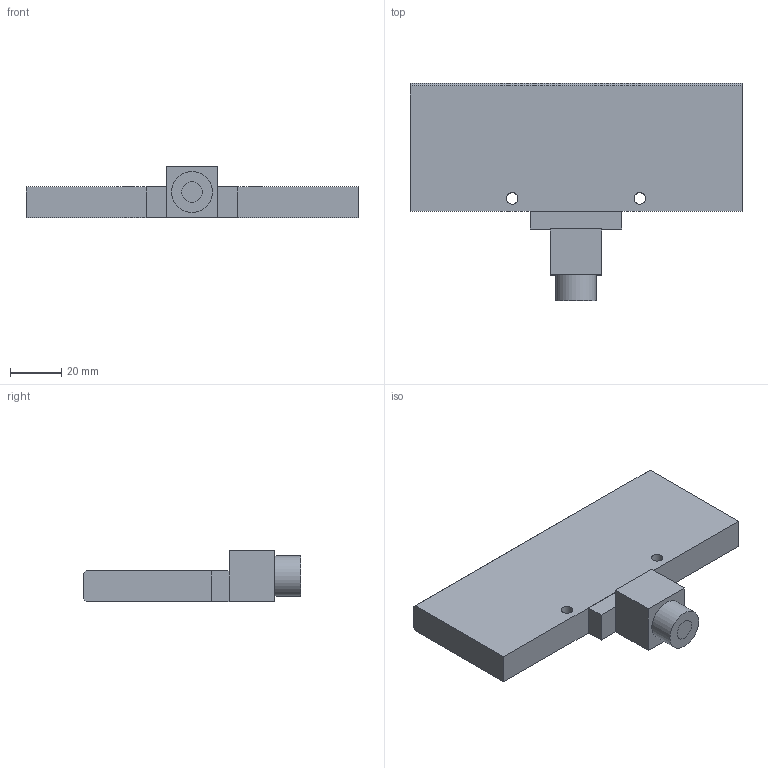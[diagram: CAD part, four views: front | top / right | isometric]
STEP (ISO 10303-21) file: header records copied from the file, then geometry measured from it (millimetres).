
FILE_DESCRIPTION(/* description */ (''),/* implementation_level */ '2;1');
FILE_NAME(/* name */ '',/* time_stamp */ '2023-02-24T17:40:50+09:00',/* author */ (''),/* organization */ (''),/* preprocessor_version */ 'ST-DEVELOPER v19.2',/* originating_system */ 'Autodesk Translation Framework v11.17.0.187',/* authorisation */ '');
FILE_SCHEMA (('AUTOMOTIVE_DESIGN { 1 0 10303 214 3 1 1 }'));
Length unit declared in the file: millimetre
Products named in the file (1): LS120×0.4 共通照射部
Bounding box: 130 x 85 x 20 mm (x, y, z)
Volume: 89722.9 mm3; surface area: 24648.8 mm2
Topology: 5 solids, 5 shells, 40 faces, 85 edges, 56 vertices
Faces by surface type: plane 35, cylinder 5
Full cylindrical faces by diameter (mm): 4.5 x2, 8 x2, 16 x1
Entity records: 1104 total; most frequent: CARTESIAN_POINT 182, DIRECTION 177, ORIENTED_EDGE 170, EDGE_CURVE 85, LINE 75, VECTOR 75, VERTEX_POINT 56, AXIS2_PLACEMENT_3D 51
